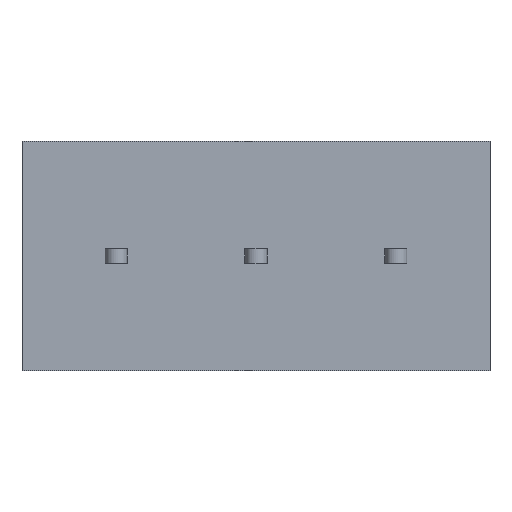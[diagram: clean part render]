
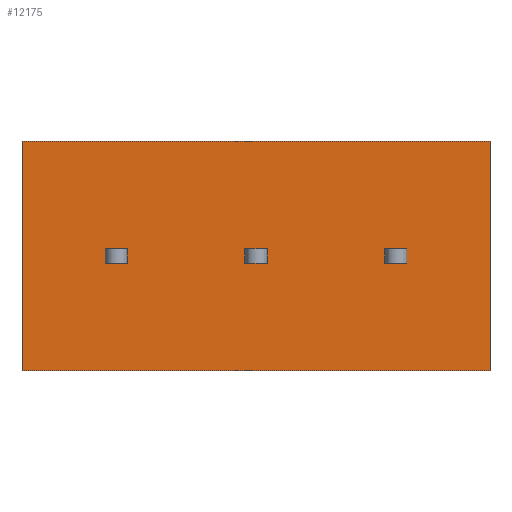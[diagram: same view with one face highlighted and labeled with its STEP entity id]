
A CAD part, front view. The second image highlights one B-rep face of the part: STEP entity #12175.
In plain terms, the highlighted planar face has unit normal (0, -1, 0).
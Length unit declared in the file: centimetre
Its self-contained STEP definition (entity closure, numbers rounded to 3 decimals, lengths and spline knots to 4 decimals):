
#823=VERTEX_POINT('',#15405);
#824=VERTEX_POINT('',#15406);
#827=VERTEX_POINT('',#15414);
#842=VERTEX_POINT('',#15458);
#1177=VERTEX_POINT('',#16959);
#1178=VERTEX_POINT('',#16961);
#1324=VERTEX_POINT('',#17443);
#1325=VERTEX_POINT('',#17444);
#1328=VERTEX_POINT('',#17452);
#1346=VERTEX_POINT('',#17501);
#1496=VERTEX_POINT('',#18011);
#1497=VERTEX_POINT('',#18012);
#1500=VERTEX_POINT('',#18020);
#1518=VERTEX_POINT('',#18069);
#1879=VERTEX_POINT('',#19651);
#1880=VERTEX_POINT('',#19653);
#2021=VECTOR('',#12961,1.);
#2024=VECTOR('',#12967,1.);
#2042=VECTOR('',#13002,1.);
#2045=VECTOR('',#13010,1.);
#2443=VECTOR('',#13549,1.);
#2585=VECTOR('',#13872,1.);
#2589=VECTOR('',#13877,1.);
#2607=VECTOR('',#13917,1.);
#2609=VECTOR('',#13920,1.);
#2763=VECTOR('',#14264,1.);
#2767=VECTOR('',#14269,1.);
#2785=VECTOR('',#14309,1.);
#2787=VECTOR('',#14312,1.);
#3225=VECTOR('',#14917,1.);
#3235=VECTOR('',#14932,1.);
#3236=VECTOR('',#14934,1.);
#3375=LINE('',#15404,#2021);
#3378=LINE('',#15413,#2024);
#3396=LINE('',#15457,#2042);
#3399=LINE('',#15465,#2045);
#3797=LINE('',#16960,#2443);
#3939=LINE('',#17442,#2585);
#3943=LINE('',#17451,#2589);
#3961=LINE('',#17500,#2607);
#3963=LINE('',#17504,#2609);
#4117=LINE('',#18010,#2763);
#4121=LINE('',#18019,#2767);
#4139=LINE('',#18068,#2785);
#4141=LINE('',#18072,#2787);
#4579=LINE('',#19652,#3225);
#4589=LINE('',#19671,#3235);
#4590=LINE('',#19673,#3236);
#4801=EDGE_CURVE('',#823,#824,#3375,.T.);
#4805=EDGE_CURVE('',#824,#827,#3378,.T.);
#4827=EDGE_CURVE('',#827,#842,#3396,.T.);
#4831=EDGE_CURVE('',#842,#823,#3399,.T.);
#5335=EDGE_CURVE('',#1178,#1177,#3797,.T.);
#5553=EDGE_CURVE('',#1324,#1325,#3939,.T.);
#5557=EDGE_CURVE('',#1328,#1324,#3943,.T.);
#5581=EDGE_CURVE('',#1346,#1328,#3961,.T.);
#5583=EDGE_CURVE('',#1325,#1346,#3963,.T.);
#5813=EDGE_CURVE('',#1496,#1497,#4117,.T.);
#5817=EDGE_CURVE('',#1500,#1496,#4121,.T.);
#5841=EDGE_CURVE('',#1518,#1500,#4139,.T.);
#5843=EDGE_CURVE('',#1497,#1518,#4141,.T.);
#6391=EDGE_CURVE('',#1880,#1879,#4579,.T.);
#6401=EDGE_CURVE('',#1880,#1177,#4589,.T.);
#6402=EDGE_CURVE('',#1879,#1178,#4590,.T.);
#9988=ORIENTED_EDGE('',*,*,#4827,.F.);
#9989=ORIENTED_EDGE('',*,*,#4805,.F.);
#9990=ORIENTED_EDGE('',*,*,#4801,.F.);
#9991=ORIENTED_EDGE('',*,*,#4831,.F.);
#9992=ORIENTED_EDGE('',*,*,#5557,.T.);
#9993=ORIENTED_EDGE('',*,*,#5553,.T.);
#9994=ORIENTED_EDGE('',*,*,#5583,.T.);
#9995=ORIENTED_EDGE('',*,*,#5581,.T.);
#9996=ORIENTED_EDGE('',*,*,#5817,.T.);
#9997=ORIENTED_EDGE('',*,*,#5813,.T.);
#9998=ORIENTED_EDGE('',*,*,#5843,.T.);
#9999=ORIENTED_EDGE('',*,*,#5841,.T.);
#10000=ORIENTED_EDGE('',*,*,#6391,.T.);
#10001=ORIENTED_EDGE('',*,*,#6402,.T.);
#10002=ORIENTED_EDGE('',*,*,#5335,.T.);
#10003=ORIENTED_EDGE('',*,*,#6401,.F.);
#10760=EDGE_LOOP('',(#9988,#9989,#9990,#9991));
#10761=EDGE_LOOP('',(#9992,#9993,#9994,#9995));
#10762=EDGE_LOOP('',(#9996,#9997,#9998,#9999));
#10763=EDGE_LOOP('',(#10000,#10001,#10002,#10003));
#11498=FACE_BOUND('',#10760,.T.);
#11499=FACE_BOUND('',#10761,.T.);
#11500=FACE_BOUND('',#10762,.T.);
#11501=FACE_BOUND('',#10763,.T.);
#12175=ADVANCED_FACE('',(#11498,#11499,#11500,#11501),#12651,.T.);
#12651=PLANE('',#20379);
#12961=DIRECTION('',(-1.,0.,0.));
#12967=DIRECTION('',(0.,0.,-1.));
#13002=DIRECTION('',(1.,0.,0.));
#13010=DIRECTION('',(0.,0.,1.));
#13549=DIRECTION('',(0.,0.,1.));
#13872=DIRECTION('',(0.,0.,1.));
#13877=DIRECTION('',(-1.,0.,0.));
#13917=DIRECTION('',(0.,0.,-1.));
#13920=DIRECTION('',(1.,0.,0.));
#14264=DIRECTION('',(0.,0.,1.));
#14269=DIRECTION('',(-1.,0.,0.));
#14309=DIRECTION('',(0.,0.,-1.));
#14312=DIRECTION('',(1.,0.,0.));
#14917=DIRECTION('',(0.,0.,-1.));
#14932=DIRECTION('',(1.,0.,0.));
#14933=DIRECTION('',(0.,-1.,0.));
#14934=DIRECTION('',(1.,0.,0.));
#15404=CARTESIAN_POINT('',(-0.465,0.,0.04));
#15405=CARTESIAN_POINT('',(-0.25,0.,0.04));
#15406=CARTESIAN_POINT('',(-0.37,0.,0.04));
#15413=CARTESIAN_POINT('',(-0.37,0.,-0.1675));
#15414=CARTESIAN_POINT('',(-0.37,0.,-0.04));
#15457=CARTESIAN_POINT('',(-0.465,0.,-0.04));
#15458=CARTESIAN_POINT('',(-0.25,0.,-0.04));
#15465=CARTESIAN_POINT('',(-0.25,0.,-0.1675));
#16959=CARTESIAN_POINT('',(1.726,0.,0.625));
#16960=CARTESIAN_POINT('',(1.726,0.,0.625));
#16961=CARTESIAN_POINT('',(1.726,0.,-0.625));
#17442=CARTESIAN_POINT('',(1.154,0.,-0.1675));
#17443=CARTESIAN_POINT('',(1.154,0.,-0.04));
#17444=CARTESIAN_POINT('',(1.154,0.,0.04));
#17451=CARTESIAN_POINT('',(0.607,0.,-0.04));
#17452=CARTESIAN_POINT('',(1.274,0.,-0.04));
#17500=CARTESIAN_POINT('',(1.274,0.,-0.1675));
#17501=CARTESIAN_POINT('',(1.274,0.,0.04));
#17504=CARTESIAN_POINT('',(0.607,0.,0.04));
#18010=CARTESIAN_POINT('',(0.392,0.,-0.1675));
#18011=CARTESIAN_POINT('',(0.392,0.,-0.04));
#18012=CARTESIAN_POINT('',(0.392,0.,0.04));
#18019=CARTESIAN_POINT('',(0.226,0.,-0.04));
#18020=CARTESIAN_POINT('',(0.512,0.,-0.04));
#18068=CARTESIAN_POINT('',(0.512,0.,-0.1675));
#18069=CARTESIAN_POINT('',(0.512,0.,0.04));
#18072=CARTESIAN_POINT('',(0.226,0.,0.04));
#19651=CARTESIAN_POINT('',(-0.822,0.,-0.625));
#19652=CARTESIAN_POINT('',(-0.822,0.,-0.625));
#19653=CARTESIAN_POINT('',(-0.822,0.,0.625));
#19671=CARTESIAN_POINT('',(-0.762,0.,0.625));
#19672=CARTESIAN_POINT('',(-0.762,0.,0.));
#19673=CARTESIAN_POINT('',(-0.762,0.,-0.625));
#20379=AXIS2_PLACEMENT_3D('',#19672,#14933,$);
